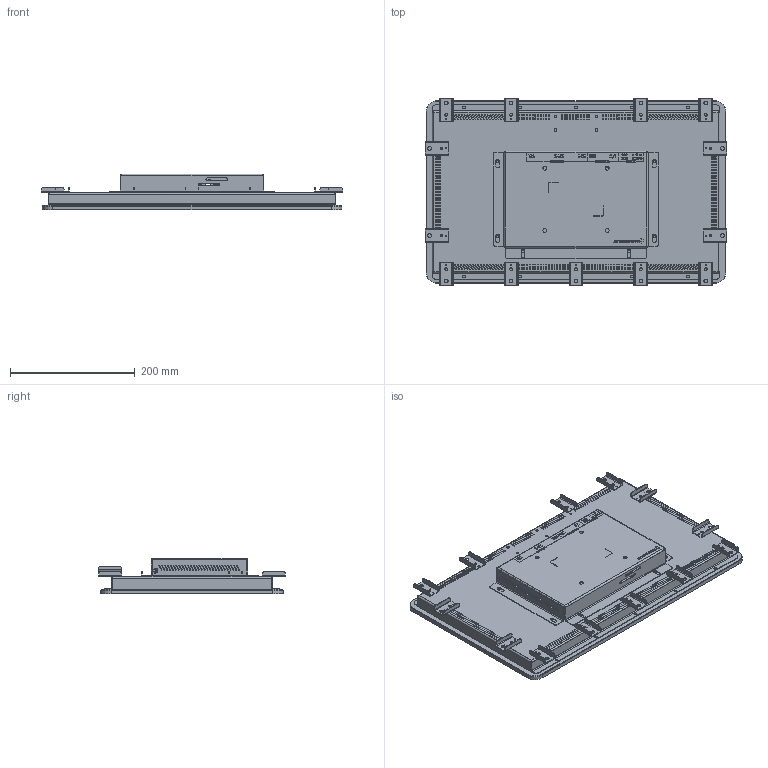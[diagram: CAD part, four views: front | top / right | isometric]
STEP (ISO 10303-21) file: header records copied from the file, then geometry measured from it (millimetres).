
FILE_DESCRIPTION(('STEP AP242'), '1');
FILE_NAME('Ñáîðêà_Gla18W', '', ('UNSPECIFIED'), ('UNSPECIFIED'), 'C3D Converter', 'C3D Toolkit', '');
FILE_SCHEMA(('AP242_MANAGED_MODEL_BASED_3D_ENGINEERING_MIM_LF { 1 0 10303 442 1 1 4 }'));
Length unit declared in the file: millimetre
Bounding box: 484.2 x 300.2 x 57.75 mm (x, y, z)
Volume: 1148938.2 mm3; surface area: 712578.2 mm2
Topology: 2 solids, 2 shells, 3605 faces, 9947 edges, 6514 vertices
Faces by surface type: plane 1814, extrusion 894, cylinder 865, bspline 32
Full cylindrical faces by diameter (mm): 1.6 x13, 2 x4, 2.5 x13, 3.9 x1, 4 x19, 4.2 x19, 4.22 x4, 4.35 x13, 6 x13, 6.1 x4
Entity records: 146984 total; most frequent: CARTESIAN_POINT 27470, ORIENTED_EDGE 19688, DIRECTION 15944, EDGE_CURVE 9844, VECTOR 7188, VERTEX_POINT 6514, LINE 6294, EDGE_LOOP 4560
